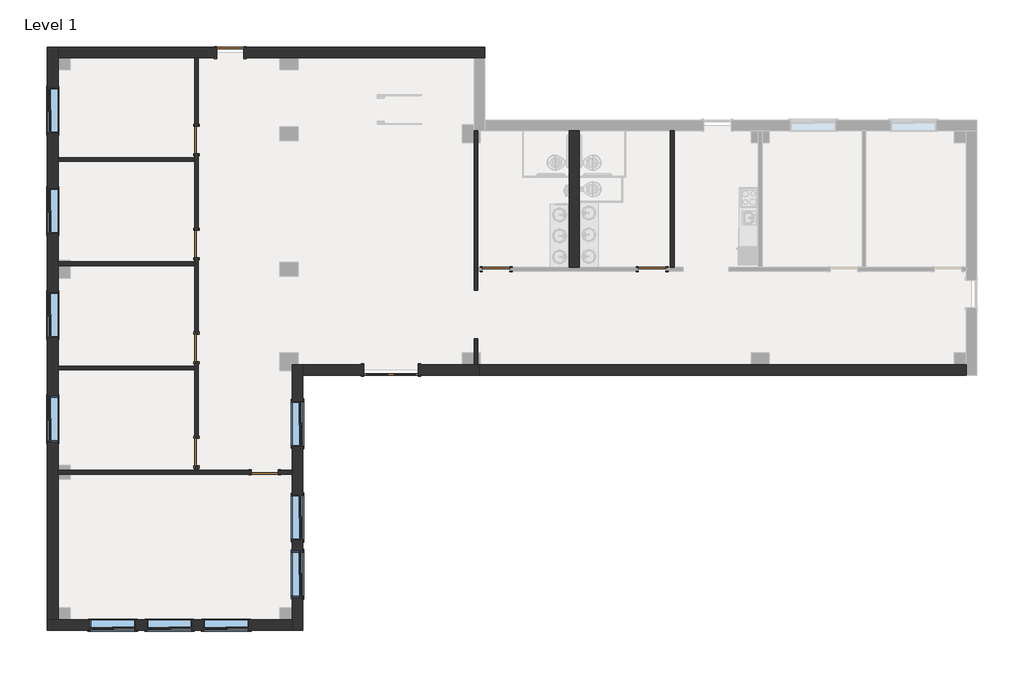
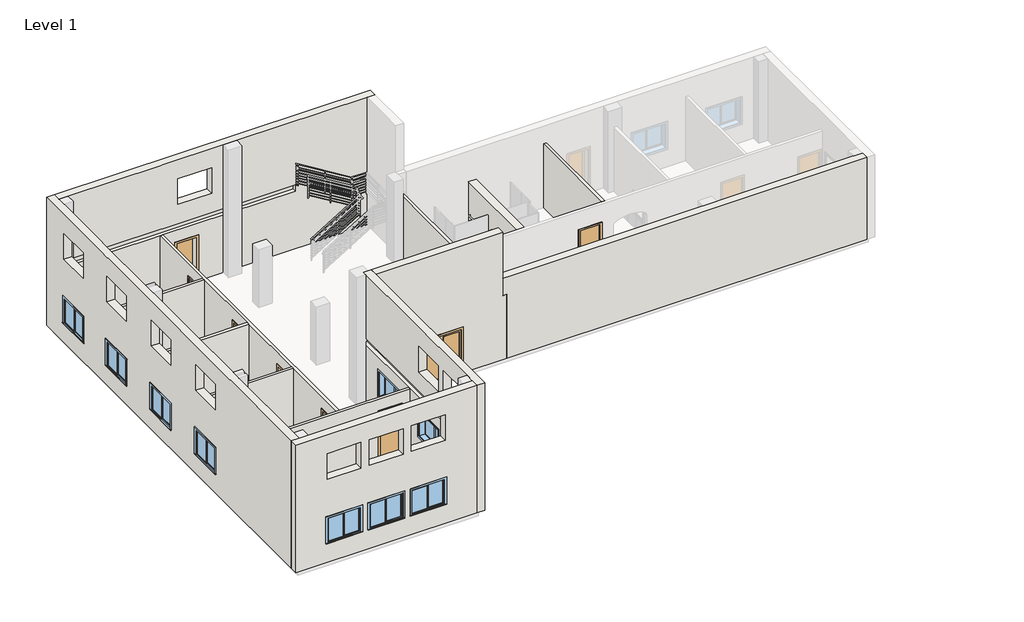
# One storey, part 1 of 2: 15 walls, 10 windows, 9 doors.
"""IFC4 building model written with IfcOpenShell, lengths in millimetres."""

from ifc_helpers import new_model, si_unit, origin, origin_with_axes, place, context, project, spatial, polyline, outline, extrude, faceted_brep, transform, mapped, element, save
from components import door_ed2c6a3f, door_cc5399a4, door_eb9f8b14, door_88503111, window_8313e728

model = new_model("IFC4")

# Units and contexts
model_context = context("Model", 3, world=origin())
ifc_project = project(units=[si_unit("LENGTHUNIT", "METRE", prefix="MILLI")], contexts=[model_context])

# Site, building, storey
site = spatial("IfcSite", under=ifc_project)
building = spatial("IfcBuilding", under=site)
storey = spatial("IfcBuildingStorey", under=building, Name="Level 1", Elevation=0.0)

# Doors
placement = place(None, origin())
door_shape = door_ed2c6a3f(model_context)
element("IfcDoor", 1, ObjectType="Double-Glass 1 : 72\" x 84\"", at=placement, inside=storey, context=model_context, shape_type="MappedRepresentation", body=[
    mapped(door_shape, transform((-2441.8329052, 126.9792924, 0.0), x_axis=(-1.0, 0.0, 0.0), y_axis=(0.0, -1.0, 0.0), z_axis=(0.0, 0.0, 1.0))),
])
door_2_shape = door_cc5399a4(model_context)
element("IfcDoor", 2, ObjectType="Single-Flush : 36\" x 84\"", at=placement, inside=storey, context=model_context, shape_type="MappedRepresentation", body=[
    mapped(door_2_shape, transform((-7821.0766552, 10744.9730424, 0.0), x_axis=(-1.0, 0.0, 0.0), y_axis=(0.0, -1.0, 0.0), z_axis=(0.0, 0.0, 1.0))),
])
door_3_shape = door_eb9f8b14(model_context)
element("IfcDoor", 3, ObjectType="Single-Flush : 36\" x 84\"", at=placement, inside=storey, context=model_context, shape_type="MappedRepresentation", body=[
    mapped(door_3_shape, transform((-6668.5516552, -3294.8769576, 0.0), x_axis=(1.0, 0.0, 0.0), y_axis=(0.0, 1.0, 0.0), z_axis=(0.0, 0.0, 1.0))),
])
element("IfcDoor", 4, ObjectType="Single-Flush : 36\" x 84\"", at=placement, inside=storey, context=model_context, shape_type="MappedRepresentation", body=[
    mapped(door_3_shape, transform((-8949.7891552, -2623.3644576, 0.0), x_axis=(0.0, -1.0, 0.0), y_axis=(1.0, 0.0, 0.0), z_axis=(0.0, 0.0, 1.0))),
])
element("IfcDoor", 5, ObjectType="Single-Flush : 36\" x 84\"", at=placement, inside=storey, context=model_context, shape_type="MappedRepresentation", body=[
    mapped(door_3_shape, transform((-8949.7891552, 862.7855424, 0.0), x_axis=(0.0, -1.0, 0.0), y_axis=(1.0, 0.0, 0.0), z_axis=(0.0, 0.0, 1.0))),
])
element("IfcDoor", 6, ObjectType="Single-Flush : 36\" x 84\"", at=placement, inside=storey, context=model_context, shape_type="MappedRepresentation", body=[
    mapped(door_3_shape, transform((-8949.7891552, 4339.4105424, 0.0), x_axis=(0.0, -1.0, 0.0), y_axis=(1.0, 0.0, 0.0), z_axis=(0.0, 0.0, 1.0))),
])
element("IfcDoor", 7, ObjectType="Single-Flush : 36\" x 84\"", at=placement, inside=storey, context=model_context, shape_type="MappedRepresentation", body=[
    mapped(door_3_shape, transform((-8949.7891552, 7820.7980424, 0.0), x_axis=(0.0, -1.0, 0.0), y_axis=(1.0, 0.0, 0.0), z_axis=(0.0, 0.0, 1.0))),
])
element("IfcDoor", 8, ObjectType="Single-Flush : 36\" x 84\"", at=placement, inside=storey, context=model_context, shape_type="MappedRepresentation", body=[
    mapped(door_3_shape, transform((1075.2733448, 3496.4480424, 0.0), x_axis=(-1.0, 0.0, 0.0), y_axis=(0.0, -1.0, 0.0), z_axis=(0.0, 0.0, 1.0))),
])
door_4_shape = door_88503111(model_context)
element("IfcDoor", 9, ObjectType="Single-Flush : 36\" x 84\"", at=placement, inside=storey, context=model_context, shape_type="MappedRepresentation", body=[
    mapped(door_4_shape, transform((6294.9733448, 3496.4480424, 0.0), x_axis=(1.0, 0.0, 0.0), y_axis=(0.0, 1.0, 0.0), z_axis=(0.0, 0.0, 1.0))),
])

# Walls
element("IfcWall", 10, ObjectType="Exterior - Brick on Mtl. Stud", at=placement, inside=storey, context=model_context, shape_type="Brep", body=[
    faceted_brep([(-5754.1516552, 300.8105424, 0.0), (-5754.1516552, 97.6105424, 0.0), (-5754.1516552, -3232.9644576, 0.0), (-5754.1516552, -3356.7894576, 0.0), (-5754.1516552, -7827.1894576, 0.0), (-5754.1516552, -8233.5894576, 0.0), (-5754.1516552, -8586.0144576, 0.0), (-5754.1516552, -8586.0144576, 6100.0), (-5754.1516552, -8233.5894576, 6100.0), (-5754.1516552, -7827.1894576, 6100.0), (-5754.1516552, -3356.7894576, 6100.0), (-5754.1516552, -3232.9644576, 6100.0), (-5754.1516552, 97.6105424, 6100.0), (-5754.1516552, 300.8105424, 6100.0), (-5754.1516552, 300.8105424, 3060.0), (-5754.1516552, -3232.9644576, 3060.0), (-5754.1516552, -3356.7894576, 3060.0), (-5754.1516552, -8233.5894576, 3060.0), (-5754.1516552, -8398.6894576, 3060.0), (-5754.1516552, -8398.6894576, 2755.2), (-5754.1516552, -8233.5894576, 2755.2), (-5754.1516552, -3356.7894576, 2755.2), (-5754.1516552, -3232.9644576, 2755.2), (-5754.1516552, 300.8105424, 2755.2), (-5754.1516552, -7471.5894576, 2133.6), (-5754.1516552, -7471.5894576, 914.4), (-5754.1516552, -5947.5894576, 914.4), (-5754.1516552, -5947.5894576, 2133.6), (-5754.1516552, -5572.9394576, 2133.6), (-5754.1516552, -5572.9394576, 914.4), (-5754.1516552, -4048.9394576, 914.4), (-5754.1516552, -4048.9394576, 2133.6), (-5754.1516552, -2439.2144576, 2133.6), (-5754.1516552, -2439.2144576, 914.4), (-5754.1516552, -915.2144576, 914.4), (-5754.1516552, -915.2144576, 2133.6), (-5754.1516552, -5572.9394576, 5193.6), (-5754.1516552, -5572.9394576, 3974.4), (-5754.1516552, -4048.9394576, 3974.4), (-5754.1516552, -4048.9394576, 5193.6), (-5754.1516552, -7471.5894576, 5193.6), (-5754.1516552, -7471.5894576, 3974.4), (-5754.1516552, -5947.5894576, 3974.4), (-5754.1516552, -5947.5894576, 5193.6), (-5401.7266552, -8586.0144576, 0.0), (-5401.7266552, -51.6144576, 0.0), (-5401.7266552, 300.8105424, 0.0), (-5401.7266552, 300.8105424, 6100.0), (-5401.7266552, -51.6144576, 6100.0), (-5401.7266552, -8586.0144576, 6100.0), (-5401.7266552, -7471.5894576, 914.4), (-5401.7266552, -7471.5894576, 2133.6), (-5401.7266552, -5947.5894576, 2133.6), (-5401.7266552, -5947.5894576, 914.4), (-5401.7266552, -5572.9394576, 914.4), (-5401.7266552, -5572.9394576, 2133.6), (-5401.7266552, -4048.9394576, 2133.6), (-5401.7266552, -4048.9394576, 914.4), (-5401.7266552, -2439.2144576, 914.4), (-5401.7266552, -2439.2144576, 2133.6), (-5401.7266552, -915.2144576, 2133.6), (-5401.7266552, -915.2144576, 914.4), (-5401.7266552, -5572.9394576, 3974.4), (-5401.7266552, -5572.9394576, 5193.6), (-5401.7266552, -4048.9394576, 5193.6), (-5401.7266552, -4048.9394576, 3974.4), (-5401.7266552, -7471.5894576, 3974.4), (-5401.7266552, -7471.5894576, 5193.6), (-5401.7266552, -5947.5894576, 5193.6), (-5401.7266552, -5947.5894576, 3974.4), (-5550.9516552, 300.8105424, 0.0), (-5550.9516552, 300.8105424, 6100.0), (-5589.0516552, 300.8105424, 2755.2), (-5589.0516552, 300.8105424, 3060.0), (-5589.0516552, -8398.6894576, 2755.2), (-5589.0516552, -8398.6894576, 3060.0)], [[[0, 1, 2, 3, 4, 5, 6, 7, 8, 9, 10, 11, 12, 13, 14, 15, 16, 17, 18, 19, 20, 21, 22, 23], [24, 25, 26, 27], [28, 29, 30, 31], [32, 33, 34, 35], [36, 37, 38, 39], [40, 41, 42, 43]], [[44, 45, 46, 47, 48, 49], [50, 51, 52, 53], [54, 55, 56, 57], [58, 59, 60, 61], [62, 63, 64, 65], [66, 67, 68, 69]], [[6, 5, 4, 3, 2, 1, 0, 70, 46, 45, 44]], [[13, 12, 11, 10, 9, 8, 7, 49, 48, 47, 71]], [[25, 24, 51, 50]], [[26, 25, 50, 53]], [[27, 26, 53, 52]], [[24, 27, 52, 51]], [[29, 28, 55, 54]], [[30, 29, 54, 57]], [[31, 30, 57, 56]], [[28, 31, 56, 55]], [[33, 32, 59, 58]], [[34, 33, 58, 61]], [[35, 34, 61, 60]], [[32, 35, 60, 59]], [[37, 36, 63, 62]], [[38, 37, 62, 65]], [[39, 38, 65, 64]], [[36, 39, 64, 63]], [[41, 40, 67, 66]], [[42, 41, 66, 69]], [[43, 42, 69, 68]], [[40, 43, 68, 67]], [[13, 71, 47, 46, 70, 0, 23, 72, 73, 14]], [[7, 6, 44, 49]], [[19, 74, 72, 23, 22, 21, 20]], [[73, 75, 18, 17, 16, 15, 14]], [[74, 75, 73, 72]], [[75, 74, 19, 18]]]),
])
element("IfcWall", 11, ObjectType="Exterior - Brick on Mtl. Stud", at=placement, inside=storey, context=model_context, shape_type="Brep", body=[
    faceted_brep([(-5754.1516552, -8233.5894576, 0.0), (-6160.5516552, -8233.5894576, 0.0), (-13177.3016552, -8233.5894576, 0.0), (-13583.7016552, -8233.5894576, 0.0), (-13936.1266552, -8233.5894576, 0.0), (-13936.1266552, -8233.5894576, 6100.0), (-13583.7016552, -8233.5894576, 6100.0), (-13177.3016552, -8233.5894576, 6100.0), (-6160.5516552, -8233.5894576, 6100.0), (-5754.1516552, -8233.5894576, 6100.0), (-5754.1516552, -8233.5894576, 3060.0), (-13748.8016552, -8233.5894576, 3060.0), (-13748.8016552, -8233.5894576, 2755.2), (-5754.1516552, -8233.5894576, 2755.2), (-12516.9016552, -8233.5894576, 2133.6), (-12516.9016552, -8233.5894576, 914.4), (-10992.9016552, -8233.5894576, 914.4), (-10992.9016552, -8233.5894576, 2133.6), (-10618.2516552, -8233.5894576, 2133.6), (-10618.2516552, -8233.5894576, 914.4), (-9094.2516552, -8233.5894576, 914.4), (-9094.2516552, -8233.5894576, 2133.6), (-8719.6016552, -8233.5894576, 2133.6), (-8719.6016552, -8233.5894576, 914.4), (-7195.6016552, -8233.5894576, 914.4), (-7195.6016552, -8233.5894576, 2133.6), (-8719.6016552, -8233.5894576, 5193.6), (-8719.6016552, -8233.5894576, 3974.4), (-7195.6016552, -8233.5894576, 3974.4), (-7195.6016552, -8233.5894576, 5193.6), (-10618.2516552, -8233.5894576, 5193.6), (-10618.2516552, -8233.5894576, 3974.4), (-9094.2516552, -8233.5894576, 3974.4), (-9094.2516552, -8233.5894576, 5193.6), (-12516.9016552, -8233.5894576, 5193.6), (-12516.9016552, -8233.5894576, 3974.4), (-10992.9016552, -8233.5894576, 3974.4), (-10992.9016552, -8233.5894576, 5193.6), (-13936.1266552, -8586.0144576, 0.0), (-5754.1516552, -8586.0144576, 0.0), (-5754.1516552, -8586.0144576, 6100.0), (-13936.1266552, -8586.0144576, 6100.0), (-12516.9016552, -8586.0144576, 914.4), (-12516.9016552, -8586.0144576, 2133.6), (-10992.9016552, -8586.0144576, 2133.6), (-10992.9016552, -8586.0144576, 914.4), (-10618.2516552, -8586.0144576, 914.4), (-10618.2516552, -8586.0144576, 2133.6), (-9094.2516552, -8586.0144576, 2133.6), (-9094.2516552, -8586.0144576, 914.4), (-8719.6016552, -8586.0144576, 914.4), (-8719.6016552, -8586.0144576, 2133.6), (-7195.6016552, -8586.0144576, 2133.6), (-7195.6016552, -8586.0144576, 914.4), (-8719.6016552, -8586.0144576, 3974.4), (-8719.6016552, -8586.0144576, 5193.6), (-7195.6016552, -8586.0144576, 5193.6), (-7195.6016552, -8586.0144576, 3974.4), (-10618.2516552, -8586.0144576, 3974.4), (-10618.2516552, -8586.0144576, 5193.6), (-9094.2516552, -8586.0144576, 5193.6), (-9094.2516552, -8586.0144576, 3974.4), (-12516.9016552, -8586.0144576, 3974.4), (-12516.9016552, -8586.0144576, 5193.6), (-10992.9016552, -8586.0144576, 5193.6), (-10992.9016552, -8586.0144576, 3974.4), (-5754.1516552, -8398.6894576, 2755.2), (-5754.1516552, -8398.6894576, 3060.0), (-13748.8016552, -8398.6894576, 2755.2), (-13748.8016552, -8398.6894576, 3060.0)], [[[0, 1, 2, 3, 4, 5, 6, 7, 8, 9, 10, 11, 12, 13], [14, 15, 16, 17], [18, 19, 20, 21], [22, 23, 24, 25], [26, 27, 28, 29], [30, 31, 32, 33], [34, 35, 36, 37]], [[38, 39, 40, 41], [42, 43, 44, 45], [46, 47, 48, 49], [50, 51, 52, 53], [54, 55, 56, 57], [58, 59, 60, 61], [62, 63, 64, 65]], [[4, 3, 2, 1, 0, 39, 38]], [[9, 8, 7, 6, 5, 41, 40]], [[15, 14, 43, 42]], [[16, 15, 42, 45]], [[17, 16, 45, 44]], [[14, 17, 44, 43]], [[19, 18, 47, 46]], [[20, 19, 46, 49]], [[21, 20, 49, 48]], [[18, 21, 48, 47]], [[23, 22, 51, 50]], [[24, 23, 50, 53]], [[25, 24, 53, 52]], [[22, 25, 52, 51]], [[27, 26, 55, 54]], [[28, 27, 54, 57]], [[29, 28, 57, 56]], [[26, 29, 56, 55]], [[31, 30, 59, 58]], [[32, 31, 58, 61]], [[33, 32, 61, 60]], [[30, 33, 60, 59]], [[35, 34, 63, 62]], [[36, 35, 62, 65]], [[37, 36, 65, 64]], [[34, 37, 64, 63]], [[5, 4, 38, 41]], [[9, 40, 39, 0, 13, 66, 67, 10]], [[12, 68, 66, 13]], [[67, 69, 11, 10]], [[68, 69, 67, 66]], [[69, 68, 12, 11]]]),
])
element("IfcWall", 12, ObjectType="Exterior - Brick on Mtl. Stud", at=placement, inside=storey, context=model_context, shape_type="Brep", body=[
    faceted_brep([(-13583.7016552, -8233.5894576, 0.0), (-13583.7016552, -7827.1894576, 0.0), (-13583.7016552, -3523.4769576, 0.0), (-13583.7016552, -3356.7894576, 0.0), (-13583.7016552, -3232.9644576, 0.0), (-13583.7016552, -3066.2769576, 0.0), (-13583.7016552, 131.3449174, 0.0), (-13583.7016552, 255.1699174, 0.0), (-13583.7016552, 3191.6480424, 0.0), (-13583.7016552, 3619.4792924, 0.0), (-13583.7016552, 3743.3042924, 0.0), (-13583.7016552, 3801.2480424, 0.0), (-13583.7016552, 7107.6136674, 0.0), (-13583.7016552, 7231.4386674, 0.0), (-13583.7016552, 10162.3605424, 0.0), (-13583.7016552, 10568.7605424, 0.0), (-13583.7016552, 10921.1855424, 0.0), (-13583.7016552, 10921.1855424, 6100.0), (-13583.7016552, 10568.7605424, 6100.0), (-13583.7016552, 10162.3605424, 6100.0), (-13583.7016552, 7211.1980424, 6100.0), (-13583.7016552, 7087.3730424, 6100.0), (-13583.7016552, 3801.2480424, 6100.0), (-13583.7016552, 3729.8105424, 6100.0), (-13583.7016552, 3605.9855424, 6100.0), (-13583.7016552, 3191.6480424, 6100.0), (-13583.7016552, 248.4230424, 6100.0), (-13583.7016552, 124.5980424, 6100.0), (-13583.7016552, -3066.2769576, 6100.0), (-13583.7016552, -3232.9644576, 6100.0), (-13583.7016552, -3356.7894576, 6100.0), (-13583.7016552, -3523.4769576, 6100.0), (-13583.7016552, -7827.1894576, 6100.0), (-13583.7016552, -8233.5894576, 6100.0), (-13583.7016552, -8233.5894576, 3060.0), (-13583.7016552, -3356.7894576, 3060.0), (-13583.7016552, -3232.9644576, 3060.0), (-13583.7016552, 124.5980424, 3060.0), (-13583.7016552, 248.4230424, 3060.0), (-13583.7016552, 3605.9855424, 3060.0), (-13583.7016552, 3729.8105424, 3060.0), (-13583.7016552, 7087.3730424, 3060.0), (-13583.7016552, 7211.1980424, 3060.0), (-13583.7016552, 10733.8605424, 3060.0), (-13583.7016552, 10733.8605424, 2755.2), (-13583.7016552, 7231.4386674, 2755.2), (-13583.7016552, 7107.6136674, 2755.2), (-13583.7016552, 3743.3042924, 2755.2), (-13583.7016552, 3619.4792924, 2755.2), (-13583.7016552, 255.1699174, 2755.2), (-13583.7016552, 131.3449174, 2755.2), (-13583.7016552, -3232.9644576, 2755.2), (-13583.7016552, -3356.7894576, 2755.2), (-13583.7016552, -8233.5894576, 2755.2), (-13583.7016552, -757.2582076, 2133.6), (-13583.7016552, -757.2582076, 914.4), (-13583.7016552, -2281.2582076, 914.4), (-13583.7016552, -2281.2582076, 2133.6), (-13583.7016552, 2724.1292924, 2133.6), (-13583.7016552, 2724.1292924, 914.4), (-13583.7016552, 1200.1292924, 914.4), (-13583.7016552, 1200.1292924, 2133.6), (-13583.7016552, 6205.5167924, 2133.6), (-13583.7016552, 6205.5167924, 914.4), (-13583.7016552, 4681.5167924, 914.4), (-13583.7016552, 4681.5167924, 2133.6), (-13583.7016552, 9567.0480424, 2133.6), (-13583.7016552, 9567.0480424, 914.4), (-13583.7016552, 8043.0480424, 914.4), (-13583.7016552, 8043.0480424, 2133.6), (-13583.7016552, 9567.0480424, 5193.6), (-13583.7016552, 9567.0480424, 3974.4), (-13583.7016552, 8043.0480424, 3974.4), (-13583.7016552, 8043.0480424, 5193.6), (-13583.7016552, 6205.5167924, 5193.6), (-13583.7016552, 6205.5167924, 3974.4), (-13583.7016552, 4681.5167924, 3974.4), (-13583.7016552, 4681.5167924, 5193.6), (-13583.7016552, 2724.1292924, 5193.6), (-13583.7016552, 2724.1292924, 3974.4), (-13583.7016552, 1200.1292924, 3974.4), (-13583.7016552, 1200.1292924, 5193.6), (-13583.7016552, -757.2582076, 5193.6), (-13583.7016552, -757.2582076, 3974.4), (-13583.7016552, -2281.2582076, 3974.4), (-13583.7016552, -2281.2582076, 5193.6), (-13936.1266552, 10921.1855424, 0.0), (-13936.1266552, -8233.5894576, 0.0), (-13936.1266552, -8233.5894576, 6100.0), (-13936.1266552, 10921.1855424, 6100.0), (-13936.1266552, -757.2582076, 914.4), (-13936.1266552, -757.2582076, 2133.6), (-13936.1266552, -2281.2582076, 2133.6), (-13936.1266552, -2281.2582076, 914.4), (-13936.1266552, 2724.1292924, 914.4), (-13936.1266552, 2724.1292924, 2133.6), (-13936.1266552, 1200.1292924, 2133.6), (-13936.1266552, 1200.1292924, 914.4), (-13936.1266552, 6205.5167924, 914.4), (-13936.1266552, 6205.5167924, 2133.6), (-13936.1266552, 4681.5167924, 2133.6), (-13936.1266552, 4681.5167924, 914.4), (-13936.1266552, 9567.0480424, 914.4), (-13936.1266552, 9567.0480424, 2133.6), (-13936.1266552, 8043.0480424, 2133.6), (-13936.1266552, 8043.0480424, 914.4), (-13936.1266552, 9567.0480424, 3974.4), (-13936.1266552, 9567.0480424, 5193.6), (-13936.1266552, 8043.0480424, 5193.6), (-13936.1266552, 8043.0480424, 3974.4), (-13936.1266552, 6205.5167924, 3974.4), (-13936.1266552, 6205.5167924, 5193.6), (-13936.1266552, 4681.5167924, 5193.6), (-13936.1266552, 4681.5167924, 3974.4), (-13936.1266552, 2724.1292924, 3974.4), (-13936.1266552, 2724.1292924, 5193.6), (-13936.1266552, 1200.1292924, 5193.6), (-13936.1266552, 1200.1292924, 3974.4), (-13936.1266552, -757.2582076, 3974.4), (-13936.1266552, -757.2582076, 5193.6), (-13936.1266552, -2281.2582076, 5193.6), (-13936.1266552, -2281.2582076, 3974.4), (-13748.8016552, -8233.5894576, 2755.2), (-13748.8016552, -8233.5894576, 3060.0), (-13748.8016552, 10733.8605424, 2755.2), (-13748.8016552, 10733.8605424, 3060.0)], [[[0, 1, 2, 3, 4, 5, 6, 7, 8, 9, 10, 11, 12, 13, 14, 15, 16, 17, 18, 19, 20, 21, 22, 23, 24, 25, 26, 27, 28, 29, 30, 31, 32, 33, 34, 35, 36, 37, 38, 39, 40, 41, 42, 43, 44, 45, 46, 47, 48, 49, 50, 51, 52, 53], [54, 55, 56, 57], [58, 59, 60, 61], [62, 63, 64, 65], [66, 67, 68, 69], [70, 71, 72, 73], [74, 75, 76, 77], [78, 79, 80, 81], [82, 83, 84, 85]], [[86, 87, 88, 89], [90, 91, 92, 93], [94, 95, 96, 97], [98, 99, 100, 101], [102, 103, 104, 105], [106, 107, 108, 109], [110, 111, 112, 113], [114, 115, 116, 117], [118, 119, 120, 121]], [[16, 15, 14, 13, 12, 11, 10, 9, 8, 7, 6, 5, 4, 3, 2, 1, 0, 87, 86]], [[33, 32, 31, 30, 29, 28, 27, 26, 25, 24, 23, 22, 21, 20, 19, 18, 17, 89, 88]], [[55, 54, 91, 90]], [[56, 55, 90, 93]], [[57, 56, 93, 92]], [[54, 57, 92, 91]], [[59, 58, 95, 94]], [[60, 59, 94, 97]], [[61, 60, 97, 96]], [[58, 61, 96, 95]], [[63, 62, 99, 98]], [[64, 63, 98, 101]], [[65, 64, 101, 100]], [[62, 65, 100, 99]], [[67, 66, 103, 102]], [[68, 67, 102, 105]], [[69, 68, 105, 104]], [[66, 69, 104, 103]], [[71, 70, 107, 106]], [[72, 71, 106, 109]], [[73, 72, 109, 108]], [[70, 73, 108, 107]], [[75, 74, 111, 110]], [[76, 75, 110, 113]], [[77, 76, 113, 112]], [[74, 77, 112, 111]], [[79, 78, 115, 114]], [[80, 79, 114, 117]], [[81, 80, 117, 116]], [[78, 81, 116, 115]], [[83, 82, 119, 118]], [[84, 83, 118, 121]], [[85, 84, 121, 120]], [[82, 85, 120, 119]], [[17, 16, 86, 89]], [[33, 88, 87, 0, 53, 122, 123, 34]], [[124, 122, 53, 52, 51, 50, 49, 48, 47, 46, 45, 44]], [[125, 43, 42, 41, 40, 39, 38, 37, 36, 35, 34, 123]], [[125, 124, 44, 43]], [[124, 125, 123, 122]]]),
])
element("IfcWall", 13, ObjectType="Exterior - Brick on Mtl. Stud", at=placement, inside=storey, context=model_context, shape_type="Brep", body=[
    faceted_brep([(694.2733448, 10568.7605424, 6100.0), (341.8483448, 10568.7605424, 6100.0), (-5550.9516552, 10568.7605424, 6100.0), (-6160.5516552, 10568.7605424, 6100.0), (-8887.8766552, 10568.7605424, 6100.0), (-9011.7016552, 10568.7605424, 6100.0), (-13177.3016552, 10568.7605424, 6100.0), (-13583.7016552, 10568.7605424, 6100.0), (-13583.7016552, 10568.7605424, 3060.0), (-9011.7016552, 10568.7605424, 3060.0), (-8887.8766552, 10568.7605424, 3060.0), (-2909.3516552, 10568.7605424, 3060.0), (-2909.3516552, 10568.7605424, 2755.2), (-8887.8766552, 10568.7605424, 2755.2), (-9011.7016552, 10568.7605424, 2755.2), (-13583.7016552, 10568.7605424, 2755.2), (-13583.7016552, 10568.7605424, 0.0), (-13177.3016552, 10568.7605424, 0.0), (-9011.7016552, 10568.7605424, 0.0), (-8887.8766552, 10568.7605424, 0.0), (-8278.2766552, 10568.7605424, 0.0), (-8278.2766552, 10568.7605424, 2133.6), (-7363.8766552, 10568.7605424, 2133.6), (-7363.8766552, 10568.7605424, 0.0), (-6160.5516552, 10568.7605424, 0.0), (-5550.9516552, 10568.7605424, 0.0), (341.8483448, 10568.7605424, 0.0), (694.2733448, 10568.7605424, 0.0), (-6684.4266552, 10568.7605424, 5193.6), (-6684.4266552, 10568.7605424, 3974.4), (-8208.4266552, 10568.7605424, 3974.4), (-8208.4266552, 10568.7605424, 5193.6), (-13583.7016552, 10921.1855424, 6100.0), (694.2733448, 10921.1855424, 6100.0), (694.2733448, 10921.1855424, 0.0), (-7363.8766552, 10921.1855424, 0.0), (-7363.8766552, 10921.1855424, 2133.6), (-8278.2766552, 10921.1855424, 2133.6), (-8278.2766552, 10921.1855424, 0.0), (-13583.7016552, 10921.1855424, 0.0), (-6684.4266552, 10921.1855424, 3974.4), (-6684.4266552, 10921.1855424, 5193.6), (-8208.4266552, 10921.1855424, 5193.6), (-8208.4266552, 10921.1855424, 3974.4), (-13583.7016552, 10733.8605424, 2755.2), (-13583.7016552, 10733.8605424, 3060.0), (-2909.3516552, 10733.8605424, 2755.2), (-2909.3516552, 10733.8605424, 3060.0)], [[[0, 1, 2, 3, 4, 5, 6, 7, 8, 9, 10, 11, 12, 13, 14, 15, 16, 17, 18, 19, 20, 21, 22, 23, 24, 25, 26, 27], [28, 29, 30, 31]], [[32, 33, 34, 35, 36, 37, 38, 39], [40, 41, 42, 43]], [[38, 20, 19, 18, 17, 16, 39]], [[23, 35, 34, 27, 26, 25, 24]], [[7, 6, 5, 4, 3, 2, 1, 0, 33, 32]], [[21, 20, 38, 37]], [[22, 21, 37, 36]], [[23, 22, 36, 35]], [[29, 28, 41, 40]], [[30, 29, 40, 43]], [[31, 30, 43, 42]], [[28, 31, 42, 41]], [[0, 27, 34, 33]], [[7, 32, 39, 16, 15, 44, 45, 8]], [[12, 46, 44, 15, 14, 13]], [[45, 47, 11, 10, 9, 8]], [[46, 47, 45, 44]], [[47, 46, 12, 11]]]),
])
element("IfcWall", 14, ObjectType="Exterior - Brick on Mtl. Stud", at=placement, inside=storey, context=model_context, shape_type="Brep", body=[
    faceted_brep([(16801.0483448, 300.8105424, 0.0), (16394.6483448, 300.8105424, 0.0), (10214.5108448, 300.8105424, 0.0), (9604.9108448, 300.8105424, 0.0), (545.0483448, 300.8105424, 0.0), (518.0608448, 300.8105424, 0.0), (518.0608448, 300.8105424, 3060.0), (341.8483448, 300.8105424, 3060.0), (341.8483448, 300.8105424, 3900.0), (694.2733448, 300.8105424, 3900.0), (9604.9108448, 300.8105424, 3900.0), (10214.5108448, 300.8105424, 3900.0), (16394.6483448, 300.8105424, 3900.0), (16801.0483448, 300.8105424, 3900.0), (16801.0483448, -51.6144576, 0.0), (16801.0483448, -51.6144576, 3900.0), (694.2733448, -51.6144576, 3900.0), (341.8483448, -51.6144576, 3900.0), (341.8483448, -51.6144576, 3060.0), (518.0608448, -51.6144576, 3060.0), (518.0608448, -51.6144576, 0.0)], [[[0, 1, 2, 3, 4, 5, 6, 7, 8, 9, 10, 11, 12, 13]], [[14, 15, 16, 17, 18, 19, 20]], [[5, 4, 3, 2, 1, 0, 14, 20]], [[13, 12, 11, 10, 9, 8, 17, 16, 15]], [[6, 5, 20, 19]], [[18, 7, 6, 19]], [[8, 7, 18, 17]], [[0, 13, 15, 14]]]),
])
element("IfcWall", 15, ObjectType="Exterior - Brick on Mtl. Stud", at=placement, inside=storey, context=model_context, shape_type="Brep", body=[
    faceted_brep([(-3356.2329052, 300.8105424, 2133.6), (-3356.2329052, 300.8105424, 0.0), (-5401.7266552, 300.8105424, 0.0), (-5401.7266552, 300.8105424, 6100.0), (341.8483448, 300.8105424, 6100.0), (341.8483448, 300.8105424, 3900.0), (341.8483448, 300.8105424, 3060.0), (465.6733448, 300.8105424, 3060.0), (518.0608448, 300.8105424, 3060.0), (518.0608448, 300.8105424, 0.0), (465.6733448, 300.8105424, 0.0), (341.8483448, 300.8105424, 0.0), (-64.5516552, 300.8105424, 0.0), (-1527.4329052, 300.8105424, 0.0), (-1527.4329052, 300.8105424, 2133.6), (-5401.7266552, -51.6144576, 0.0), (-3356.2329052, -51.6144576, 0.0), (-3356.2329052, -51.6144576, 2133.6), (-1527.4329052, -51.6144576, 2133.6), (-1527.4329052, -51.6144576, 0.0), (518.0608448, -51.6144576, 0.0), (518.0608448, -51.6144576, 3060.0), (341.8483448, -51.6144576, 3060.0), (341.8483448, -51.6144576, 3900.0), (341.8483448, -51.6144576, 6100.0), (-5401.7266552, -51.6144576, 6100.0)], [[[0, 1, 2, 3, 4, 5, 6, 7, 8, 9, 10, 11, 12, 13, 14]], [[15, 16, 17, 18, 19, 20, 21, 22, 23, 24, 25]], [[2, 1, 16, 15]], [[13, 12, 11, 10, 9, 20, 19]], [[4, 3, 25, 24]], [[3, 2, 15, 25]], [[9, 8, 21, 20]], [[6, 22, 21, 8, 7]], [[6, 5, 4, 24, 23, 22]], [[17, 16, 1, 0]], [[18, 17, 0, 14]], [[19, 18, 14, 13]]]),
])
element("IfcWall", 16, ObjectType="Interior - 4 7/8\" Partition (1-hr)", at=placement, inside=storey, context=model_context, shape_type="Brep", body=[
    faceted_brep([(-8887.8766552, 4796.6105424, 0.0), (-8887.8766552, 7363.5980424, 0.0), (-8887.8766552, 7363.5980424, 2133.6), (-8887.8766552, 8277.9980424, 2133.6), (-8887.8766552, 8277.9980424, 0.0), (-8887.8766552, 10568.7605424, 0.0), (-8887.8766552, 10568.7605424, 2755.2), (-8887.8766552, -3232.9644576, 2755.2), (-8887.8766552, -3232.9644576, 0.0), (-8887.8766552, -3080.5644576, 0.0), (-8887.8766552, -3080.5644576, 2133.6), (-8887.8766552, -2166.1644576, 2133.6), (-8887.8766552, -2166.1644576, 0.0), (-8887.8766552, 405.5855424, 0.0), (-8887.8766552, 405.5855424, 2133.6), (-8887.8766552, 1319.9855424, 2133.6), (-8887.8766552, 1319.9855424, 0.0), (-8887.8766552, 3882.2105424, 0.0), (-8887.8766552, 3882.2105424, 2133.6), (-8887.8766552, 4796.6105424, 2133.6), (-9011.7016552, 7363.5980424, 2133.6), (-9011.7016552, 7363.5980424, 0.0), (-9011.7016552, 7231.4386674, 0.0), (-9011.7016552, 7107.6136674, 0.0), (-9011.7016552, 4796.6105424, 0.0), (-9011.7016552, 4796.6105424, 2133.6), (-9011.7016552, 3882.2105424, 2133.6), (-9011.7016552, 3882.2105424, 0.0), (-9011.7016552, 3743.3042924, 0.0), (-9011.7016552, 3619.4792924, 0.0), (-9011.7016552, 1319.9855424, 0.0), (-9011.7016552, 1319.9855424, 2133.6), (-9011.7016552, 405.5855424, 2133.6), (-9011.7016552, 405.5855424, 0.0), (-9011.7016552, 255.1699174, 0.0), (-9011.7016552, 131.3449174, 0.0), (-9011.7016552, -2166.1644576, 0.0), (-9011.7016552, -2166.1644576, 2133.6), (-9011.7016552, -3080.5644576, 2133.6), (-9011.7016552, -3080.5644576, 0.0), (-9011.7016552, -3232.9644576, 0.0), (-9011.7016552, -3232.9644576, 2755.2), (-9011.7016552, 131.3449174, 2755.2), (-9011.7016552, 255.1699174, 2755.2), (-9011.7016552, 3619.4792924, 2755.2), (-9011.7016552, 3743.3042924, 2755.2), (-9011.7016552, 7107.6136674, 2755.2), (-9011.7016552, 7231.4386674, 2755.2), (-9011.7016552, 10568.7605424, 2755.2), (-9011.7016552, 10568.7605424, 0.0), (-9011.7016552, 8277.9980424, 0.0), (-9011.7016552, 8277.9980424, 2133.6)], [[[0, 1, 2, 3, 4, 5, 6, 7, 8, 9, 10, 11, 12, 13, 14, 15, 16, 17, 18, 19]], [[20, 21, 22, 23, 24, 25, 26, 27, 28, 29, 30, 31, 32, 33, 34, 35, 36, 37, 38, 39, 40, 41, 42, 43, 44, 45, 46, 47, 48, 49, 50, 51]], [[40, 39, 9, 8]], [[36, 35, 34, 33, 13, 12]], [[30, 29, 28, 27, 17, 16]], [[50, 49, 5, 4]], [[24, 23, 22, 21, 1, 0]], [[8, 7, 41, 40]], [[10, 9, 39, 38]], [[11, 10, 38, 37]], [[12, 11, 37, 36]], [[14, 13, 33, 32]], [[15, 14, 32, 31]], [[16, 15, 31, 30]], [[18, 17, 27, 26]], [[19, 18, 26, 25]], [[0, 19, 25, 24]], [[2, 1, 21, 20]], [[3, 2, 20, 51]], [[4, 3, 51, 50]], [[6, 5, 49, 48]], [[7, 6, 48, 47, 46, 45, 44, 43, 42, 41]]]),
])
element("IfcWall", 17, ObjectType="Interior - 4 7/8\" Partition (1-hr)", at=placement, inside=storey, context=model_context, shape_type="SweptSolid", body=[
    extrude(outline(polyline([(6904.5733448, 3558.3605424), (6904.5733448, 8130.3605424), (7028.3983448, 8130.3605424), (7028.3983448, 3558.3605424), (6904.5733448, 3558.3605424)])), origin_with_axes(), (0.0, 0.0, 1.0), 3060.0),
])
element("IfcWall", 18, ObjectType="Interior - 4 7/8\" Partition (1-hr)", at=placement, inside=storey, context=model_context, shape_type="Brep", body=[
    faceted_brep([(-6211.3516552, -3356.7894576, 2133.6), (-6211.3516552, -3356.7894576, 0.0), (-5754.1516552, -3356.7894576, 0.0), (-5754.1516552, -3356.7894576, 2755.2), (-13177.3016552, -3356.7894576, 2755.2), (-13583.7016552, -3356.7894576, 2755.2), (-13583.7016552, -3356.7894576, 0.0), (-13177.3016552, -3356.7894576, 0.0), (-7125.7516552, -3356.7894576, 0.0), (-7125.7516552, -3356.7894576, 2133.6), (-5754.1516552, -3232.9644576, 0.0), (-6211.3516552, -3232.9644576, 0.0), (-6211.3516552, -3232.9644576, 2133.6), (-7125.7516552, -3232.9644576, 2133.6), (-7125.7516552, -3232.9644576, 0.0), (-8887.8766552, -3232.9644576, 0.0), (-9011.7016552, -3232.9644576, 0.0), (-13177.3016552, -3232.9644576, 0.0), (-13583.7016552, -3232.9644576, 0.0), (-13583.7016552, -3232.9644576, 2755.2), (-13177.3016552, -3232.9644576, 2755.2), (-9011.7016552, -3232.9644576, 2755.2), (-8887.8766552, -3232.9644576, 2755.2), (-5754.1516552, -3232.9644576, 2755.2)], [[[0, 1, 2, 3, 4, 5, 6, 7, 8, 9]], [[10, 11, 12, 13, 14, 15, 16, 17, 18, 19, 20, 21, 22, 23]], [[2, 1, 11, 10]], [[8, 7, 6, 18, 17, 16, 15, 14]], [[12, 11, 1, 0]], [[13, 12, 0, 9]], [[14, 13, 9, 8]], [[3, 2, 10, 23]], [[6, 5, 19, 18]], [[5, 4, 3, 23, 22, 21, 20, 19]]]),
])
element("IfcWall", 19, ObjectType="Interior - 4 7/8\" Partition (1-hr)", at=placement, inside=storey, context=model_context, shape_type="SweptSolid", body=[
    extrude(outline(polyline([(-9011.7016552, 131.3449174), (-13583.7016552, 131.3449174), (-13583.7016552, 255.1699174), (-9011.7016552, 255.1699174), (-9011.7016552, 131.3449174)])), origin_with_axes(), (0.0, 0.0, 1.0), 2755.2),
])
element("IfcWall", 20, ObjectType="Interior - 4 7/8\" Partition (1-hr)", at=placement, inside=storey, context=model_context, shape_type="Brep", body=[
    faceted_brep([(-13583.7016552, 3619.4792924, 0.0), (-13177.3016552, 3619.4792924, 0.0), (-9011.7016552, 3619.4792924, 0.0), (-9011.7016552, 3619.4792924, 2755.2), (-13177.3016552, 3619.4792924, 2755.2), (-13583.7016552, 3619.4792924, 2755.2), (-13583.7016552, 3743.3042924, 0.0), (-13583.7016552, 3743.3042924, 2755.2), (-13177.3016552, 3743.3042924, 2755.2), (-9011.7016552, 3743.3042924, 2755.2), (-9011.7016552, 3743.3042924, 0.0), (-13177.3016552, 3743.3042924, 0.0)], [[[0, 1, 2, 3, 4, 5]], [[6, 7, 8, 9, 10, 11]], [[2, 1, 0, 6, 11, 10]], [[3, 2, 10, 9]], [[0, 5, 7, 6]], [[5, 4, 3, 9, 8, 7]]]),
])
element("IfcWall", 21, ObjectType="Interior - 4 7/8\" Partition (1-hr)", at=placement, inside=storey, context=model_context, shape_type="SweptSolid", body=[
    extrude(outline(polyline([(-9011.7016552, 7107.6136674), (-13583.7016552, 7107.6136674), (-13583.7016552, 7231.4386674), (-9011.7016552, 7231.4386674), (-9011.7016552, 7107.6136674)])), origin_with_axes(), (0.0, 0.0, 1.0), 2755.2),
])
element("IfcWall", 22, ObjectType="Interior - 4 7/8\" Partition (1-hr)", at=placement, inside=storey, context=model_context, shape_type="Brep", body=[
    faceted_brep([(341.8483448, 8130.3605424, 0.0), (341.8483448, 7723.9605424, 0.0), (341.8483448, 2791.5980424, 0.0), (341.8483448, 2791.5980424, 3060.0), (341.8483448, 8130.3605424, 3060.0), (465.6733448, 8130.3605424, 0.0), (465.6733448, 8130.3605424, 3060.0), (465.6733448, 7723.9605424, 3060.0), (465.6733448, 3558.3605424, 3060.0), (465.6733448, 3434.5355424, 3060.0), (465.6733448, 2791.5980424, 3060.0), (465.6733448, 2791.5980424, 0.0), (465.6733448, 3434.5355424, 0.0), (465.6733448, 3558.3605424, 0.0), (465.6733448, 7723.9605424, 0.0)], [[[0, 1, 2, 3, 4]], [[5, 6, 7, 8, 9, 10, 11, 12, 13, 14]], [[2, 1, 0, 5, 14, 13, 12, 11]], [[3, 2, 11, 10]], [[4, 3, 10, 9, 8, 7, 6]], [[0, 4, 6, 5]]]),
])
element("IfcWall", 23, ObjectType="Interior - 4 7/8\" Partition (1-hr)", at=placement, inside=storey, context=model_context, shape_type="Brep", body=[
    faceted_brep([(341.8483448, 1165.9980424, 0.0), (341.8483448, 707.2105424, 0.0), (341.8483448, 300.8105424, 0.0), (341.8483448, 300.8105424, 3060.0), (341.8483448, 1165.9980424, 3060.0), (465.6733448, 1165.9980424, 0.0), (465.6733448, 1165.9980424, 3060.0), (465.6733448, 707.2105424, 3060.0), (465.6733448, 300.8105424, 3060.0), (465.6733448, 300.8105424, 0.0), (465.6733448, 707.2105424, 0.0)], [[[0, 1, 2, 3, 4]], [[5, 6, 7, 8, 9, 10]], [[2, 1, 0, 5, 10, 9]], [[4, 3, 8, 7, 6]], [[0, 4, 6, 5]], [[3, 2, 9, 8]]]),
])
element("IfcWall", 24, ObjectType="Plumbing Wall", at=placement, inside=storey, context=model_context, shape_type="SweptSolid", body=[
    extrude(outline(polyline([(3513.6733448, 3558.3605424), (3513.6733448, 8130.3605424), (3856.5733448, 8130.3605424), (3856.5733448, 3558.3605424), (3513.6733448, 3558.3605424)])), origin_with_axes(), (0.0, 0.0, 1.0), 2438.4),
])

# Windows
window_shape = window_8313e728(model_context)
element("IfcWindow", 25, ObjectType="Slider with Trim : 60\" x 48\"", at=placement, inside=storey, context=model_context, shape_type="MappedRepresentation", body=[
    mapped(window_shape, transform((-13759.9141552, -1519.2582076, 0.0), x_axis=(0.0, 1.0, 0.0), y_axis=(-1.0, 0.0, 0.0), z_axis=(0.0, 0.0, 1.0))),
])
element("IfcWindow", 26, ObjectType="Slider with Trim : 60\" x 48\"", at=placement, inside=storey, context=model_context, shape_type="MappedRepresentation", body=[
    mapped(window_shape, transform((-13759.9141552, 1962.1292924, 0.0), x_axis=(0.0, 1.0, 0.0), y_axis=(-1.0, 0.0, 0.0), z_axis=(0.0, 0.0, 1.0))),
])
element("IfcWindow", 27, ObjectType="Slider with Trim : 60\" x 48\"", at=placement, inside=storey, context=model_context, shape_type="MappedRepresentation", body=[
    mapped(window_shape, transform((-13759.9141552, 5443.5167924, 0.0), x_axis=(0.0, 1.0, 0.0), y_axis=(-1.0, 0.0, 0.0), z_axis=(0.0, 0.0, 1.0))),
])
element("IfcWindow", 28, ObjectType="Slider with Trim : 60\" x 48\"", at=placement, inside=storey, context=model_context, shape_type="MappedRepresentation", body=[
    mapped(window_shape, transform((-13759.9141552, 8805.0480424, 0.0), x_axis=(0.0, 1.0, 0.0), y_axis=(-1.0, 0.0, 0.0), z_axis=(0.0, 0.0, 1.0))),
])
element("IfcWindow", 29, ObjectType="Slider with Trim : 60\" x 48\"", at=placement, inside=storey, context=model_context, shape_type="MappedRepresentation", body=[
    mapped(window_shape, transform((-11754.9016552, -8409.8019576, 0.0), x_axis=(-1.0, 0.0, 0.0), y_axis=(0.0, -1.0, 0.0), z_axis=(0.0, 0.0, 1.0))),
])
element("IfcWindow", 30, ObjectType="Slider with Trim : 60\" x 48\"", at=placement, inside=storey, context=model_context, shape_type="MappedRepresentation", body=[
    mapped(window_shape, transform((-9856.2516552, -8409.8019576, 0.0), x_axis=(-1.0, 0.0, 0.0), y_axis=(0.0, -1.0, 0.0), z_axis=(0.0, 0.0, 1.0))),
])
element("IfcWindow", 31, ObjectType="Slider with Trim : 60\" x 48\"", at=placement, inside=storey, context=model_context, shape_type="MappedRepresentation", body=[
    mapped(window_shape, transform((-7957.6016552, -8409.8019576, 0.0), x_axis=(-1.0, 0.0, 0.0), y_axis=(0.0, -1.0, 0.0), z_axis=(0.0, 0.0, 1.0))),
])
element("IfcWindow", 32, ObjectType="Slider with Trim : 60\" x 48\"", at=placement, inside=storey, context=model_context, shape_type="MappedRepresentation", body=[
    mapped(window_shape, transform((-5577.9391552, -6709.5894576, 0.0), x_axis=(0.0, -1.0, 0.0), y_axis=(1.0, 0.0, 0.0), z_axis=(0.0, 0.0, 1.0))),
])
element("IfcWindow", 33, ObjectType="Slider with Trim : 60\" x 48\"", at=placement, inside=storey, context=model_context, shape_type="MappedRepresentation", body=[
    mapped(window_shape, transform((-5577.9391552, -4810.9394576, 0.0), x_axis=(0.0, -1.0, 0.0), y_axis=(1.0, 0.0, 0.0), z_axis=(0.0, 0.0, 1.0))),
])
element("IfcWindow", 34, ObjectType="Slider with Trim : 60\" x 48\"", at=placement, inside=storey, context=model_context, shape_type="MappedRepresentation", body=[
    mapped(window_shape, transform((-5577.9391552, -1677.2144576, 0.0), x_axis=(0.0, -1.0, 0.0), y_axis=(1.0, 0.0, 0.0), z_axis=(0.0, 0.0, 1.0))),
])

save(model, "model.ifc")
